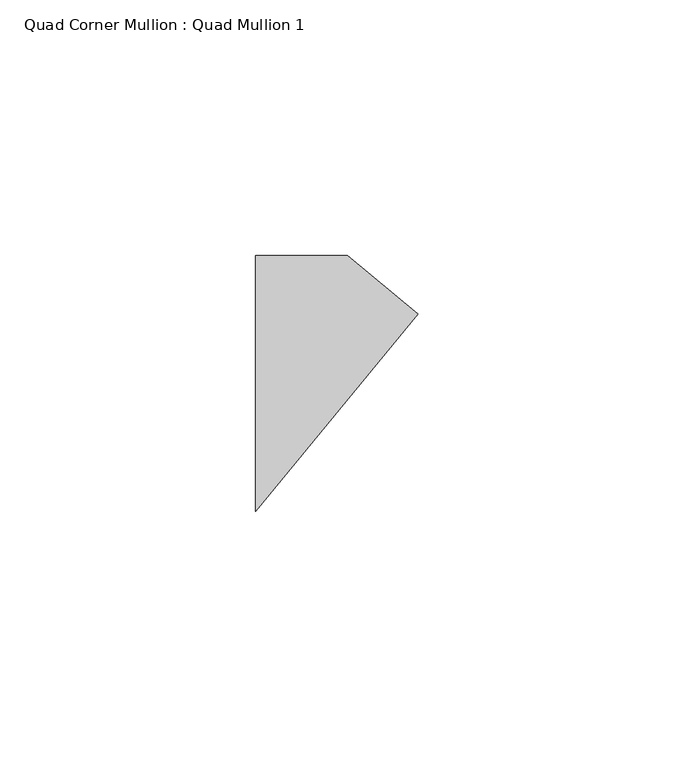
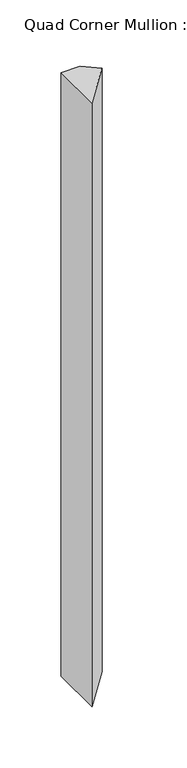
"""IFC4 building model written with IfcOpenShell, lengths in millimetres: member geometry, Quad Corner Mullion : Quad Mullion 1."""

import ifcopenshell
import ifcopenshell.guid

model = None  # the IFC model being written
_history = None  # IfcOwnerHistory: only IFC2X3 demands one
_inside = {}  # id of a spatial element -> (the spatial element, [elements in it])
_under = {}  # id of a project, library or spatial element -> (it, [spatial elements below it])
_declared = {}  # id of a project -> (the project, [libraries it declares])
_typed = {}  # id of a type object -> (the type object, [elements of that type])
_made_of = {}  # id of a material, layer set ... -> (it, [elements and type objects made of it])


def new_model(schema):
    """Start an empty IFC model of exactly this schema.

    Asked for "IFC4X3", IfcOpenShell would pick the latest addendum, in which some entities
    have other attributes; the version numbers below select the first issue.
    IFC2X3 requires an IfcOwnerHistory on every rooted entity: one is made here for all.
    """
    global model, _history
    if schema == "IFC4X3":
        model = ifcopenshell.file(schema_version=(4, 3, 0, 0))
    else:
        model = ifcopenshell.file(schema=schema)
    _inside.clear()
    _under.clear()
    _declared.clear()
    _typed.clear()
    _made_of.clear()
    _history = None
    if model.schema == "IFC2X3":
        org = make("IfcOrganization", Name="unknown")
        user = make(
            "IfcPersonAndOrganization",
            ThePerson=make("IfcPerson", FamilyName="unknown"),
            TheOrganization=org,
        )
        app = make(
            "IfcApplication",
            ApplicationDeveloper=org,
            Version="unknown",
            ApplicationFullName="unknown",
            ApplicationIdentifier="unknown",
        )
        _history = make(
            "IfcOwnerHistory",
            OwningUser=user,
            OwningApplication=app,
            ChangeAction="ADDED",
            CreationDate=0,
        )
    return model


def make(cls, **values):
    """One entity of the class cls with the attributes given. An attribute that is None is left unset."""
    return model.create_entity(
        cls, **{name: value for name, value in values.items() if value is not None}
    )


def rooted(cls, **values):
    """An entity with a GlobalId (a new one), such as an element, a storey or a relation."""
    return make(cls, GlobalId=ifcopenshell.guid.new(), OwnerHistory=_history, **values)


def si_unit(unit_type, name, prefix=None):
    """IfcSIUnit, for example si_unit("LENGTHUNIT", "METRE", prefix="MILLI")."""
    return make("IfcSIUnit", UnitType=unit_type, Prefix=prefix, Name=name)


def assignment(units):
    """IfcUnitAssignment: the units of a project."""
    return None if units is None else make("IfcUnitAssignment", Units=units)


def point(xyz):
    """IfcCartesianPoint."""
    return None if xyz is None else make("IfcCartesianPoint", Coordinates=xyz)


def direction(xyz):
    """IfcDirection."""
    return None if xyz is None else make("IfcDirection", DirectionRatios=xyz)


def frame(location, z_axis=None, x_axis=None):
    """IfcAxis2Placement3D, a coordinate frame: its origin and axes. An axis left out is left unset."""
    return make(
        "IfcAxis2Placement3D",
        Location=point(location),
        Axis=direction(z_axis),
        RefDirection=direction(x_axis),
    )


def origin():
    """The frame at (0, 0, 0) with its axes left unset."""
    return frame((0.0, 0.0, 0.0))


def place(relative_to, where):
    """IfcLocalPlacement: puts the frame where relative to a parent placement (None: the world)."""
    return make(
        "IfcLocalPlacement", PlacementRelTo=relative_to, RelativePlacement=where
    )


def context(
    kind, dimensions, precision=None, world=None, true_north=None, identifier=None
):
    """IfcGeometricRepresentationContext, for example the 3D "Model" context."""
    return make(
        "IfcGeometricRepresentationContext",
        ContextIdentifier=identifier,
        ContextType=kind,
        CoordinateSpaceDimension=dimensions,
        Precision=precision,
        WorldCoordinateSystem=world,
        TrueNorth=true_north,
    )


def project(units=None, contexts=None):
    """IfcProject with its units and contexts."""
    return rooted(
        "IfcProject",
        Name="project",
        RepresentationContexts=contexts,
        UnitsInContext=assignment(units),
    )


def spatial(cls, under=None, at=None, **own):
    """A site, building, storey or space (cls), placed at a placement, below another one or the project."""
    s = rooted(cls, ObjectPlacement=at, **own)
    if under is not None:
        _under.setdefault(under.id(), (under, []))[1].append(s)
    return s


def polyline(points):
    """IfcPolyline through the points."""
    return make("IfcPolyline", Points=[point(p) for p in points])


def outline(outer, holes=None, kind="AREA"):
    """IfcArbitraryClosedProfileDef: a profile drawn as a closed curve; with holes, ...WithVoids."""
    if holes is None:
        return make("IfcArbitraryClosedProfileDef", ProfileType=kind, OuterCurve=outer)
    return make(
        "IfcArbitraryProfileDefWithVoids",
        ProfileType=kind,
        OuterCurve=outer,
        InnerCurves=holes,
    )


def extrude(swept, where, along, depth):
    """IfcExtrudedAreaSolid: the profile swept, set in the frame where, extruded along a direction by depth."""
    return make(
        "IfcExtrudedAreaSolid",
        SweptArea=swept,
        Position=where,
        ExtrudedDirection=direction(along),
        Depth=depth,
    )


def shape(context_of_items, identifier, shape_type, items):
    """IfcShapeRepresentation: the items that make up one representation, for example the "Body"."""
    return make(
        "IfcShapeRepresentation",
        ContextOfItems=context_of_items,
        RepresentationIdentifier=identifier,
        RepresentationType=shape_type,
        Items=items,
    )


def source(mapping_origin, context_of_items, identifier, shape_type, items):
    """IfcRepresentationMap: a shape defined once, which mapped items show again and again."""
    return make(
        "IfcRepresentationMap",
        MappingOrigin=mapping_origin,
        MappedRepresentation=shape(context_of_items, identifier, shape_type, items),
    )


def transform(
    local_origin,
    x_axis=None,
    y_axis=None,
    z_axis=None,
    scale=None,
    scale2=None,
    scale3=None,
    uniform=True,
):
    """IfcCartesianTransformationOperator3D, or its non-uniform kind. x_axis, y_axis, z_axis: its Axis1, 2, 3."""
    if uniform:
        return make(
            "IfcCartesianTransformationOperator3D",
            Axis1=direction(x_axis),
            Axis2=direction(y_axis),
            LocalOrigin=point(local_origin),
            Scale=scale,
            Axis3=direction(z_axis),
        )
    return make(
        "IfcCartesianTransformationOperator3DnonUniform",
        Axis1=direction(x_axis),
        Axis2=direction(y_axis),
        LocalOrigin=point(local_origin),
        Scale=scale,
        Axis3=direction(z_axis),
        Scale2=scale2,
        Scale3=scale3,
    )


def mapped(mapping_source, mapping_target):
    """IfcMappedItem: shows the shape of a source again, moved by a transform."""
    return make(
        "IfcMappedItem", MappingSource=mapping_source, MappingTarget=mapping_target
    )


def made_of(thing, what):
    """Note that an element or type object is made of a material, layer set ...; save() writes the relation."""
    if what is not None:
        _made_of.setdefault(what.id(), (what, []))[1].append(thing)
    return thing


def element(
    cls,
    number,
    at=None,
    inside=None,
    cuts=None,
    type_object=None,
    material=None,
    context=None,
    identifier="Body",
    shape_type=None,
    held_by="IfcProductDefinitionShape",
    body=None,
    shapes=None,
    **own,
):
    """One element of the class cls, such as IfcWall. Its Tag is "e" and its number.

    at: its placement. inside: the storey or other place that contains it. cuts: it is an
    opening in that element (IfcRelVoidsElement). A single representation is given by context,
    identifier, shape_type and body (its items); several are given by shapes. held_by: the class
    of the entity that holds the representations. save() writes the other relations.
    """
    e = rooted(cls, Tag="e%d" % number, ObjectPlacement=at, **own)
    if body is not None:
        shapes = [shape(context, identifier, shape_type, body)]
    if shapes is not None:
        e.Representation = make(held_by, Representations=shapes)
    if inside is not None:
        _inside.setdefault(inside.id(), (inside, []))[1].append(e)
    if cuts is not None:
        rooted(
            "IfcRelVoidsElement", RelatingBuildingElement=cuts, RelatedOpeningElement=e
        )
    if type_object is not None:
        _typed.setdefault(type_object.id(), (type_object, []))[1].append(e)
    return made_of(e, material)


def aggregate(whole, parts):
    """IfcRelAggregates: a whole, such as a stair, and the parts it consists of."""
    return rooted("IfcRelAggregates", RelatingObject=whole, RelatedObjects=parts)


def save(model, path):
    """Write the relations noted so far, then the file.

    IfcRelAggregates (storeys below a building ...), IfcRelContainedInSpatialStructure (elements
    in a storey), IfcRelDefinesByType, IfcRelAssociatesMaterial and IfcRelDeclares: one each for
    every whole, place, type object, material and project.
    """
    for whole, parts in _under.values():
        aggregate(whole, parts)
    for where, things in _inside.values():
        rooted(
            "IfcRelContainedInSpatialStructure",
            RelatedElements=things,
            RelatingStructure=where,
        )
    for kind, things in _typed.values():
        rooted("IfcRelDefinesByType", RelatedObjects=things, RelatingType=kind)
    for what, things in _made_of.values():
        rooted("IfcRelAssociatesMaterial", RelatedObjects=things, RelatingMaterial=what)
    for by, libraries in _declared.values():
        rooted("IfcRelDeclares", RelatingContext=by, RelatedDefinitions=libraries)
    model.write(path)


def quad_corner_mullion_quad_mullion_1_125e4570(model_context):
    return source(origin(), model_context, "Body", "SweptSolid", [
        extrude(outline(polyline([(22.8068923, 13.6086231), (-8.963758, -25.0), (-8.963758, 25.0), (8.963758, 25.0), (22.8068923, 13.6086231)])), frame((0.0, 0.0, -600.0), z_axis=(0.0, 0.0, 1.0), x_axis=(1.0, 0.0, 0.0)), (0.0, 0.0, 1.0), 600.0),
    ])


if __name__ == "__main__":
    model = new_model("IFC4")
    model_context = context("Model", 3, world=origin())
    ifc_project = project(units=[si_unit("LENGTHUNIT", "METRE", prefix="MILLI")], contexts=[model_context])
    site = spatial("IfcSite", under=ifc_project)
    building = spatial("IfcBuilding", under=site)
    placement = place(None, origin())
    quad_corner_mullion_quad_mullion_1_shape = quad_corner_mullion_quad_mullion_1_125e4570(model_context)
    element("IfcMember", 1, ObjectType="Quad Corner Mullion : Quad Mullion 1", at=placement, inside=building, context=model_context, shape_type="MappedRepresentation", body=[
        mapped(quad_corner_mullion_quad_mullion_1_shape, transform((0.0, 0.0, 0.0), x_axis=(1.0, 0.0, 0.0), y_axis=(0.0, 1.0, 0.0), z_axis=(0.0, 0.0, 1.0))),
    ])
    save(model, "model.ifc")
